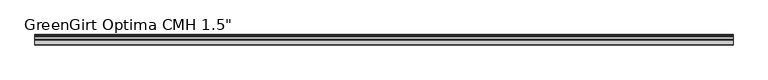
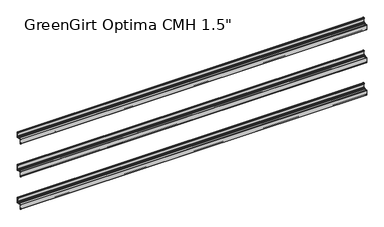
"""IFC4 building model written with IfcOpenShell, lengths in millimetres: fastener geometry."""

from ifc_helpers import new_model, si_unit, frame, origin, place, context, project, spatial, polyline, circle_curve, outline, extrude, source, transform, mapped, element, save
from ifc_brep_helpers import plane_surface, cylinder_surface, revolved_surface, advanced_brep


def fastener_05b20238(model_context):
    return source(origin(), model_context, "Body", "SolidModel", [
        advanced_brep(
        [(2540.1186361, -2.794, 882.269), (2540.1186361, -2.794, 850.9), (2540.1186361, -4.5212, 850.9), (2540.1186361, -4.5212, 855.091), (2540.1186361, -6.5532, 855.091), (2540.1186361, -6.5532, 850.9), (2540.1186361, -7.3152, 850.138), (2540.1186361, -17.7601563, 850.138), (2540.1186361, -17.7601563, 850.9864433), (2540.1186361, -20.4288947, 850.9864433), (2540.1186361, -20.4288947, 850.138), (2540.1186361, -37.3379766, 850.138), (2540.1186361, -38.0999766, 849.376), (2540.1186361, -38.1, 813.5196758), (2540.1186361, -37.3379766, 812.8), (2540.1186361, -34.4677766, 812.8), (2540.1186361, -32.4357766, 814.832), (2540.1186361, -32.4357766, 817.118), (2540.1186361, -34.4677766, 817.118), (2540.1186361, -34.4677766, 816.102), (2540.1186361, -36.1949766, 816.102), (2540.1186361, -36.1949766, 847.471), (2540.1186361, -34.4677766, 847.471), (2540.1186361, -34.4677766, 843.28), (2540.1186361, -32.4357766, 843.28), (2540.1186361, -32.4357766, 847.471), (2540.1186361, -31.6737766, 848.233), (2540.1186361, -20.4279799, 848.233), (2540.1186361, -20.4279799, 847.3840993), (2540.1186361, -17.7601563, 847.3840993), (2540.1186361, -17.7601563, 848.233), (2540.1186361, -2.667, 848.233), (2540.1186361, -1.905, 847.471), (2540.1186361, -1.905, 841.375), (2540.1186361, 0.0, 841.375), (2540.1186361, 0.0, 884.809), (2540.1186361, -0.762, 885.571), (2540.1186361, -4.5212, 885.571), (2540.1186361, -6.5532, 883.539), (2540.1186361, -6.5532, 881.253), (2540.1186361, -4.5212, 881.253), (2540.1186361, -4.5212, 882.269), (0.0, -2.794, 882.269), (0.0, -4.5212, 882.269), (0.0, -4.5212, 881.253), (0.0, -6.5532, 881.253), (0.0, -6.5532, 883.539), (0.0, -4.5212, 885.571), (0.0, -0.762, 885.571), (0.0, 0.0, 884.809), (0.0, 0.0, 841.375), (0.0, -1.905, 841.375), (0.0, -1.905, 847.471), (0.0, -2.667, 848.233), (0.0, -17.7601563, 848.233), (0.0, -17.7601563, 847.3840993), (0.0, -20.4279799, 847.3840993), (0.0, -20.4279799, 848.233), (0.0, -31.6737766, 848.233), (0.0, -32.4357766, 847.471), (0.0, -32.4357766, 843.28), (0.0, -34.4677766, 843.28), (0.0, -34.4677766, 847.471), (0.0, -36.1949766, 847.471), (0.0, -36.1949766, 816.102), (0.0, -34.4677766, 816.102), (0.0, -34.4677766, 817.118), (0.0, -32.4357766, 817.118), (0.0, -32.4357766, 814.832), (0.0, -34.4677766, 812.8), (0.0, -37.3379766, 812.8), (0.0, -38.0999766, 813.562), (0.0, -38.1, 849.4033226), (0.0, -37.3379766, 850.138), (0.0, -20.4288947, 850.138), (0.0, -20.4288947, 850.9864433), (0.0, -17.7601563, 850.9864433), (0.0, -17.7601563, 850.138), (0.0, -7.3152, 850.138), (0.0, -6.5532, 850.9), (0.0, -6.5532, 855.091), (0.0, -4.5212, 855.091), (0.0, -4.5212, 850.9), (0.0, -2.794, 850.9)],
        [
            (0, 1),
            (1, 2, circle_curve(frame((2540.1186361, -3.6576, 850.9), z_axis=(-1.0, 0.0, 0.0), x_axis=(0.0, 1.0, 0.0)), 0.8636)),
            (2, 3),
            (3, 4, circle_curve(frame((2540.1186361, -5.5372, 855.091), z_axis=(1.0, 0.0, 0.0), x_axis=(0.0, 1.0, 0.0)), 1.016)),
            (4, 5),
            (5, 6, circle_curve(frame((2540.1186361, -7.3152, 850.9), z_axis=(-1.0, 0.0, 0.0), x_axis=(0.0, 1.0, 0.0)), 0.762)),
            (6, 7),
            (7, 8),
            (8, 9, circle_curve(frame((2540.1186361, -19.0945255, 850.9864433), z_axis=(1.0, 0.0, 0.0), x_axis=(0.0, 1.0, 0.0)), 1.3343692)),
            (9, 10),
            (10, 11),
            (11, 12, circle_curve(frame((2540.1186361, -37.3379766, 849.376), z_axis=(1.0, 0.0, 0.0), x_axis=(0.0, 1.0, 0.0)), 0.762)),
            (12, 13),
            (13, 14, circle_curve(frame((2540.1186361, -37.3379766, 813.562), z_axis=(1.0, 0.0, 0.0), x_axis=(0.0, 1.0, 0.0)), 0.762)),
            (14, 15),
            (15, 16, circle_curve(frame((2540.1186361, -34.4677766, 814.832), z_axis=(1.0, 0.0, 0.0), x_axis=(0.0, 1.0, 0.0)), 2.032)),
            (16, 17),
            (17, 18, circle_curve(frame((2540.1186361, -33.4517766, 817.118), z_axis=(1.0, 0.0, 0.0), x_axis=(0.0, 1.0, 0.0)), 1.016)),
            (18, 19),
            (19, 20, circle_curve(frame((2540.1186361, -35.3313766, 816.102), z_axis=(-1.0, 0.0, 0.0), x_axis=(0.0, 1.0, 0.0)), 0.8636)),
            (20, 21),
            (21, 22, circle_curve(frame((2540.1186361, -35.3313766, 847.471), z_axis=(-1.0, 0.0, 0.0), x_axis=(0.0, 1.0, 0.0)), 0.8636)),
            (22, 23),
            (23, 24, circle_curve(frame((2540.1186361, -33.4517766, 843.28), z_axis=(1.0, 0.0, 0.0), x_axis=(0.0, 1.0, 0.0)), 1.016)),
            (24, 25),
            (25, 26, circle_curve(frame((2540.1186361, -31.6737766, 847.471), z_axis=(-1.0, 0.0, 0.0), x_axis=(0.0, 1.0, 0.0)), 0.762)),
            (26, 27),
            (27, 28),
            (28, 29, circle_curve(frame((2540.1186361, -19.0940681, 847.3840993), z_axis=(1.0, 0.0, 0.0), x_axis=(0.0, 1.0, 0.0)), 1.3339118)),
            (29, 30),
            (30, 31),
            (31, 32, circle_curve(frame((2540.1186361, -2.667, 847.471), z_axis=(-1.0, 0.0, 0.0), x_axis=(0.0, 1.0, 0.0)), 0.762)),
            (32, 33),
            (33, 34, circle_curve(frame((2540.1186361, -0.9525, 841.375), z_axis=(1.0, 0.0, 0.0), x_axis=(0.0, 1.0, 0.0)), 0.9525)),
            (34, 35),
            (35, 36, circle_curve(frame((2540.1186361, -0.762, 884.809), z_axis=(1.0, 0.0, 0.0), x_axis=(0.0, 1.0, 0.0)), 0.762)),
            (36, 37),
            (37, 38, circle_curve(frame((2540.1186361, -4.5212, 883.539), z_axis=(1.0, 0.0, 0.0), x_axis=(0.0, 1.0, 0.0)), 2.032)),
            (38, 39),
            (39, 40, circle_curve(frame((2540.1186361, -5.5372, 881.253), z_axis=(1.0, 0.0, 0.0), x_axis=(0.0, 1.0, 0.0)), 1.016)),
            (40, 41),
            (41, 0, circle_curve(frame((2540.1186361, -3.6576, 882.269), z_axis=(-1.0, 0.0, 0.0), x_axis=(0.0, 1.0, 0.0)), 0.8636)),
            (42, 43, circle_curve(frame((0.0, -3.6576, 882.269), z_axis=(1.0, 0.0, 0.0), x_axis=(0.0, 1.0, 0.0)), 0.8636)),
            (43, 44),
            (44, 45, circle_curve(frame((0.0, -5.5372, 881.253), z_axis=(-1.0, 0.0, 0.0), x_axis=(0.0, 1.0, 0.0)), 1.016)),
            (45, 46),
            (46, 47, circle_curve(frame((0.0, -4.5212, 883.539), z_axis=(-1.0, 0.0, 0.0), x_axis=(0.0, 1.0, 0.0)), 2.032)),
            (47, 48),
            (48, 49, circle_curve(frame((0.0, -0.762, 884.809), z_axis=(-1.0, 0.0, 0.0), x_axis=(0.0, 1.0, 0.0)), 0.762)),
            (49, 50),
            (50, 51, circle_curve(frame((0.0, -0.9525, 841.375), z_axis=(-1.0, 0.0, 0.0), x_axis=(0.0, 1.0, 0.0)), 0.9525)),
            (51, 52),
            (52, 53, circle_curve(frame((0.0, -2.667, 847.471), z_axis=(1.0, 0.0, 0.0), x_axis=(0.0, 1.0, 0.0)), 0.762)),
            (53, 54),
            (54, 55),
            (55, 56, circle_curve(frame((0.0, -19.0940681, 847.3840993), z_axis=(-1.0, 0.0, 0.0), x_axis=(0.0, 1.0, 0.0)), 1.3339118)),
            (56, 57),
            (57, 58),
            (58, 59, circle_curve(frame((0.0, -31.6737766, 847.471), z_axis=(1.0, 0.0, 0.0), x_axis=(0.0, 1.0, 0.0)), 0.762)),
            (59, 60),
            (60, 61, circle_curve(frame((0.0, -33.4517766, 843.28), z_axis=(-1.0, 0.0, 0.0), x_axis=(0.0, 1.0, 0.0)), 1.016)),
            (61, 62),
            (62, 63, circle_curve(frame((0.0, -35.3313766, 847.471), z_axis=(1.0, 0.0, 0.0), x_axis=(0.0, 1.0, 0.0)), 0.8636)),
            (63, 64),
            (64, 65, circle_curve(frame((0.0, -35.3313766, 816.102), z_axis=(1.0, 0.0, 0.0), x_axis=(0.0, 1.0, 0.0)), 0.8636)),
            (65, 66),
            (66, 67, circle_curve(frame((0.0, -33.4517766, 817.118), z_axis=(-1.0, 0.0, 0.0), x_axis=(0.0, 1.0, 0.0)), 1.016)),
            (67, 68),
            (68, 69, circle_curve(frame((0.0, -34.4677766, 814.832), z_axis=(-1.0, 0.0, 0.0), x_axis=(0.0, 1.0, 0.0)), 2.032)),
            (69, 70),
            (70, 71, circle_curve(frame((0.0, -37.3379766, 813.562), z_axis=(-1.0, 0.0, 0.0), x_axis=(0.0, 1.0, 0.0)), 0.762)),
            (71, 72),
            (72, 73, circle_curve(frame((0.0, -37.3379766, 849.376), z_axis=(-1.0, 0.0, 0.0), x_axis=(0.0, 1.0, 0.0)), 0.762)),
            (73, 74),
            (74, 75),
            (75, 76, circle_curve(frame((0.0, -19.0945255, 850.9864433), z_axis=(-1.0, 0.0, 0.0), x_axis=(0.0, 1.0, 0.0)), 1.3343692)),
            (76, 77),
            (77, 78),
            (78, 79, circle_curve(frame((0.0, -7.3152, 850.9), z_axis=(1.0, 0.0, 0.0), x_axis=(0.0, 1.0, 0.0)), 0.762)),
            (79, 80),
            (80, 81, circle_curve(frame((0.0, -5.5372, 855.091), z_axis=(-1.0, 0.0, 0.0), x_axis=(0.0, 1.0, 0.0)), 1.016)),
            (81, 82),
            (82, 83, circle_curve(frame((0.0, -3.6576, 850.9), z_axis=(1.0, 0.0, 0.0), x_axis=(0.0, 1.0, 0.0)), 0.8636)),
            (83, 42),
            (0, 42),
            (83, 1),
            (82, 2),
            (81, 3),
            (80, 4),
            (79, 5),
            (78, 6),
            (77, 7),
            (76, 8),
            (75, 9),
            (74, 10),
            (73, 11),
            (72, 12),
            (71, 13),
            (70, 14),
            (69, 15),
            (68, 16),
            (67, 17),
            (66, 18),
            (65, 19),
            (64, 20),
            (63, 21),
            (62, 22),
            (61, 23),
            (60, 24),
            (59, 25),
            (58, 26),
            (57, 27),
            (56, 28),
            (55, 29),
            (54, 30),
            (53, 31),
            (52, 32),
            (51, 33),
            (50, 34),
            (49, 35),
            (48, 36),
            (47, 37),
            (46, 38),
            (45, 39),
            (44, 40),
            (43, 41),
        ],
        [
            plane_surface(frame((2540.1186361, -2.794, 850.9), z_axis=(1.0, 0.0, 0.0), x_axis=(0.0, 0.0, -1.0))),
            plane_surface(frame((0.0, -2.794, 850.9), z_axis=(-1.0, 0.0, 0.0), x_axis=(0.0, 0.0, 1.0))),
            plane_surface(frame((2540.1186361, -2.794, 882.269), z_axis=(0.0, -1.0, 0.0), x_axis=(-1.0, 0.0, 0.0))),
            revolved_surface(polyline([(0.0, -2.794, 850.9), (2540.1186361, -2.794, 850.9)]), (0.0, -3.6576, 850.9), (-1.0, 0.0, 0.0)),
            plane_surface(frame((2540.1186361, -4.5212, 850.9), z_axis=(0.0, 1.0, 0.0), x_axis=(-1.0, 0.0, 0.0))),
            cylinder_surface(frame((0.0, -5.5372, 855.091), z_axis=(1.0, 0.0, 0.0), x_axis=(0.0, 1.0, 0.0)), 1.016),
            plane_surface(frame((2540.1186361, -6.5532, 855.091), z_axis=(0.0, -1.0, 0.0), x_axis=(-1.0, 0.0, 0.0))),
            revolved_surface(polyline([(0.0, -6.5532, 850.9), (2540.1186361, -6.5532, 850.9)]), (0.0, -7.3152, 850.9), (-1.0, 0.0, 0.0)),
            plane_surface(frame((2540.1186361, -7.3152, 850.138), z_axis=(0.0, 0.0, 1.0), x_axis=(-1.0, 0.0, 0.0))),
            plane_surface(frame((2540.1186361, -17.7601563, 850.138), z_axis=(0.0, 1.0, 0.0), x_axis=(-1.0, 0.0, 0.0))),
            cylinder_surface(frame((0.0, -19.0945255, 850.9864433), z_axis=(1.0, 0.0, 0.0), x_axis=(0.0, 1.0, 0.0)), 1.3343692),
            plane_surface(frame((2540.1186361, -20.4288947, 850.9864433), z_axis=(0.0, -1.0, 0.0), x_axis=(-1.0, 0.0, 0.0))),
            plane_surface(frame((2540.1186361, -20.4288947, 850.138), z_axis=(0.0, 0.0, 1.0), x_axis=(-1.0, 0.0, 0.0))),
            cylinder_surface(frame((0.0, -37.3379766, 849.376), z_axis=(1.0, 0.0, 0.0), x_axis=(0.0, 1.0, 0.0)), 0.762),
            plane_surface(frame((2540.1186361, -38.1, 849.4033226), z_axis=(0.0, -1.0, 0.0), x_axis=(-1.0, 0.0, 0.0))),
            cylinder_surface(frame((0.0, -37.3379766, 813.562), z_axis=(1.0, 0.0, 0.0), x_axis=(0.0, 1.0, 0.0)), 0.762),
            plane_surface(frame((2540.1186361, -37.3379766, 812.8), z_axis=(0.0, 1.174281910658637e-11, -1.0), x_axis=(-1.0, 0.0, 0.0))),
            cylinder_surface(frame((0.0, -34.4677766, 814.832), z_axis=(1.0, 0.0, 0.0), x_axis=(0.0, 1.0, 0.0)), 2.032),
            plane_surface(frame((2540.1186361, -32.4357766, 814.832), z_axis=(0.0, 1.0, 7.57912251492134e-12), x_axis=(-1.0, 0.0, 0.0))),
            cylinder_surface(frame((0.0, -33.4517766, 817.118), z_axis=(1.0, 0.0, 0.0), x_axis=(0.0, 1.0, 0.0)), 1.016),
            plane_surface(frame((2540.1186361, -34.4677766, 817.118), z_axis=(0.0, -1.0, -1.7053025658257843e-11), x_axis=(-1.0, 0.0, 0.0))),
            revolved_surface(polyline([(0.0, -34.4677766, 816.102), (2540.1186361, -34.4677766, 816.102)]), (0.0, -35.3313766, 816.102), (-1.0, 0.0, 0.0)),
            plane_surface(frame((2540.1186361, -36.1949766, 816.102), z_axis=(0.0, 1.0, 0.0), x_axis=(-1.0, 0.0, 0.0))),
            revolved_surface(polyline([(0.0, -34.4677766, 847.471), (2540.1186361, -34.4677766, 847.471)]), (0.0, -35.3313766, 847.471), (-1.0, 0.0, 0.0)),
            plane_surface(frame((2540.1186361, -34.4677766, 847.471), z_axis=(0.0, -1.0, 0.0), x_axis=(-1.0, 0.0, 0.0))),
            cylinder_surface(frame((0.0, -33.4517766, 843.28), z_axis=(1.0, 0.0, 0.0), x_axis=(0.0, 1.0, 0.0)), 1.016),
            plane_surface(frame((2540.1186361, -32.4357766, 843.28), z_axis=(0.0, 1.0, 0.0), x_axis=(-1.0, 0.0, 0.0))),
            revolved_surface(polyline([(0.0, -30.9117766, 847.471), (2540.1186361, -30.9117766, 847.471)]), (0.0, -31.6737766, 847.471), (-1.0, 0.0, 0.0)),
            plane_surface(frame((2540.1186361, -31.6737766, 848.233), z_axis=(0.0, 0.0, -1.0), x_axis=(-1.0, 0.0, 0.0))),
            plane_surface(frame((2540.1186361, -20.4279799, 848.233), z_axis=(0.0, -1.0, 0.0), x_axis=(-1.0, 0.0, 0.0))),
            cylinder_surface(frame((0.0, -19.0940681, 847.3840993), z_axis=(1.0, 0.0, 0.0), x_axis=(0.0, 1.0, 0.0)), 1.3339118),
            plane_surface(frame((2540.1186361, -17.7601563, 847.3840993), z_axis=(0.0, 1.0, 0.0), x_axis=(-1.0, 0.0, 0.0))),
            plane_surface(frame((2540.1186361, -17.7601563, 848.233), z_axis=(0.0, 0.0, -1.0), x_axis=(-1.0, 0.0, 0.0))),
            revolved_surface(polyline([(0.0, -1.9049999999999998, 847.471), (2540.1186361, -1.9049999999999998, 847.471)]), (0.0, -2.667, 847.471), (-1.0, 0.0, 0.0)),
            plane_surface(frame((2540.1186361, -1.905, 847.471), z_axis=(0.0, -1.0, 0.0), x_axis=(-1.0, 0.0, 0.0))),
            cylinder_surface(frame((0.0, -0.9525, 841.375), z_axis=(1.0, 0.0, 0.0), x_axis=(0.0, 1.0, 0.0)), 0.9525),
            plane_surface(frame((2540.1186361, 0.0, 841.375), z_axis=(0.0, 1.0, 0.0), x_axis=(-1.0, 0.0, 0.0))),
            cylinder_surface(frame((0.0, -0.762, 884.809), z_axis=(1.0, 0.0, 0.0), x_axis=(0.0, 1.0, 0.0)), 0.762),
            plane_surface(frame((2540.1186361, -0.762, 885.571), z_axis=(0.0, 2.6818637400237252e-11, 1.0), x_axis=(-1.0, 0.0, 0.0))),
            cylinder_surface(frame((0.0, -4.5212, 883.539), z_axis=(1.0, 0.0, 0.0), x_axis=(0.0, 1.0, 0.0)), 2.032),
            plane_surface(frame((2540.1186361, -6.5532, 883.539), z_axis=(0.0, -1.0, 0.0), x_axis=(-1.0, 0.0, 0.0))),
            cylinder_surface(frame((0.0, -5.5372, 881.253), z_axis=(1.0, 0.0, 0.0), x_axis=(0.0, 1.0, 0.0)), 1.016),
            plane_surface(frame((2540.1186361, -4.5212, 881.253), z_axis=(0.0, 1.0, 0.0), x_axis=(-1.0, 0.0, 0.0))),
            revolved_surface(polyline([(0.0, -2.794, 882.269), (2540.1186361, -2.794, 882.269)]), (0.0, -3.6576, 882.269), (-1.0, 0.0, 0.0)),
        ],
        [
            (0, [[1, 2, 3, 4, 5, 6, 7, 8, 9, 10, 11, 12, 13, 14, 15, 16, 17, 18, 19, 20, 21, 22, 23, 24, 25, 26, 27, 28, 29, 30, 31, 32, 33, 34, 35, 36, 37, 38, 39, 40, 41, 42]]),
            (1, [[43, 44, 45, 46, 47, 48, 49, 50, 51, 52, 53, 54, 55, 56, 57, 58, 59, 60, 61, 62, 63, 64, 65, 66, 67, 68, 69, 70, 71, 72, 73, 74, 75, 76, 77, 78, 79, 80, 81, 82, 83, 84]]),
            (2, [[-1, 85, -84, 86]]),
            (3, [[-2, -86, -83, 87]]),
            (4, [[-3, -87, -82, 88]]),
            (5, [[-4, -88, -81, 89]]),
            (6, [[-5, -89, -80, 90]]),
            (7, [[-6, -90, -79, 91]]),
            (8, [[-7, -91, -78, 92]]),
            (9, [[-8, -92, -77, 93]]),
            (10, [[-9, -93, -76, 94]]),
            (11, [[-10, -94, -75, 95]]),
            (12, [[-11, -95, -74, 96]]),
            (13, [[-12, -96, -73, 97]]),
            (14, [[-13, -97, -72, 98]]),
            (15, [[-14, -98, -71, 99]]),
            (16, [[-15, -99, -70, 100]]),
            (17, [[-16, -100, -69, 101]]),
            (18, [[-17, -101, -68, 102]]),
            (19, [[-18, -102, -67, 103]]),
            (20, [[-19, -103, -66, 104]]),
            (21, [[-20, -104, -65, 105]]),
            (22, [[-21, -105, -64, 106]]),
            (23, [[-22, -106, -63, 107]]),
            (24, [[-23, -107, -62, 108]]),
            (25, [[-24, -108, -61, 109]]),
            (26, [[-25, -109, -60, 110]]),
            (27, [[-26, -110, -59, 111]]),
            (28, [[-27, -111, -58, 112]]),
            (29, [[-28, -112, -57, 113]]),
            (30, [[-29, -113, -56, 114]]),
            (31, [[-30, -114, -55, 115]]),
            (32, [[-31, -115, -54, 116]]),
            (33, [[-32, -116, -53, 117]]),
            (34, [[-33, -117, -52, 118]]),
            (35, [[-34, -118, -51, 119]]),
            (36, [[-35, -119, -50, 120]]),
            (37, [[-36, -120, -49, 121]]),
            (38, [[-37, -121, -48, 122]]),
            (39, [[-38, -122, -47, 123]]),
            (40, [[-39, -123, -46, 124]]),
            (41, [[-40, -124, -45, 125]]),
            (42, [[-41, -125, -44, 126]]),
            (43, [[-42, -126, -43, -85]]),
        ],
    ),
        extrude(outline(polyline([(2540.1186361, -2.794), (2540.1186361, -4.5212), (0.0, -4.5212), (0.0, -2.794), (2540.1186361, -2.794)])), frame((0.0, 0.0, 851.281), z_axis=(0.0, 0.0, 1.0), x_axis=(1.0, 0.0, 0.0)), (0.0, 0.0, 1.0), 30.988),
        extrude(outline(polyline([(2540.1186361, -34.4677766), (2540.1186361, -36.1949766), (0.0, -36.1949766), (0.0, -34.4677766), (2540.1186361, -34.4677766)])), frame((0.0, 0.0, 816.102), z_axis=(0.0, 0.0, 1.0), x_axis=(1.0, 0.0, 0.0)), (0.0, 0.0, 1.0), 30.988),
        advanced_brep(
        [(2540.1186361, -2.794, 628.269), (2540.1186361, -2.794, 596.9), (2540.1186361, -4.5212, 596.9), (2540.1186361, -4.5212, 601.091), (2540.1186361, -6.5532, 601.091), (2540.1186361, -6.5532, 596.9), (2540.1186361, -7.3152, 596.138), (2540.1186361, -17.7601563, 596.138), (2540.1186361, -17.7601563, 596.9864433), (2540.1186361, -20.4288947, 596.9864433), (2540.1186361, -20.4288947, 596.138), (2540.1186361, -37.3379766, 596.138), (2540.1186361, -38.0999766, 595.376), (2540.1186361, -38.1, 559.5196758), (2540.1186361, -37.3379766, 558.8), (2540.1186361, -34.4677766, 558.8), (2540.1186361, -32.4357766, 560.832), (2540.1186361, -32.4357766, 563.118), (2540.1186361, -34.4677766, 563.118), (2540.1186361, -34.4677766, 562.102), (2540.1186361, -36.1949766, 562.102), (2540.1186361, -36.1949766, 593.471), (2540.1186361, -34.4677766, 593.471), (2540.1186361, -34.4677766, 589.28), (2540.1186361, -32.4357766, 589.28), (2540.1186361, -32.4357766, 593.471), (2540.1186361, -31.6737766, 594.233), (2540.1186361, -20.4279799, 594.233), (2540.1186361, -20.4279799, 593.3840993), (2540.1186361, -17.7601563, 593.3840993), (2540.1186361, -17.7601563, 594.233), (2540.1186361, -2.667, 594.233), (2540.1186361, -1.905, 593.471), (2540.1186361, -1.905, 587.375), (2540.1186361, 0.0, 587.375), (2540.1186361, 0.0, 630.809), (2540.1186361, -0.762, 631.571), (2540.1186361, -4.5212, 631.571), (2540.1186361, -6.5532, 629.539), (2540.1186361, -6.5532, 627.253), (2540.1186361, -4.5212, 627.253), (2540.1186361, -4.5212, 628.269), (0.0, -2.794, 628.269), (0.0, -4.5212, 628.269), (0.0, -4.5212, 627.253), (0.0, -6.5532, 627.253), (0.0, -6.5532, 629.539), (0.0, -4.5212, 631.571), (0.0, -0.762, 631.571), (0.0, 0.0, 630.809), (0.0, 0.0, 587.375), (0.0, -1.905, 587.375), (0.0, -1.905, 593.471), (0.0, -2.667, 594.233), (0.0, -17.7601563, 594.233), (0.0, -17.7601563, 593.3840993), (0.0, -20.4279799, 593.3840993), (0.0, -20.4279799, 594.233), (0.0, -31.6737766, 594.233), (0.0, -32.4357766, 593.471), (0.0, -32.4357766, 589.28), (0.0, -34.4677766, 589.28), (0.0, -34.4677766, 593.471), (0.0, -36.1949766, 593.471), (0.0, -36.1949766, 562.102), (0.0, -34.4677766, 562.102), (0.0, -34.4677766, 563.118), (0.0, -32.4357766, 563.118), (0.0, -32.4357766, 560.832), (0.0, -34.4677766, 558.8), (0.0, -37.3379766, 558.8), (0.0, -38.0999766, 559.562), (0.0, -38.1, 595.4033226), (0.0, -37.3379766, 596.138), (0.0, -20.4288947, 596.138), (0.0, -20.4288947, 596.9864433), (0.0, -17.7601563, 596.9864433), (0.0, -17.7601563, 596.138), (0.0, -7.3152, 596.138), (0.0, -6.5532, 596.9), (0.0, -6.5532, 601.091), (0.0, -4.5212, 601.091), (0.0, -4.5212, 596.9), (0.0, -2.794, 596.9)],
        [
            (0, 1),
            (1, 2, circle_curve(frame((2540.1186361, -3.6576, 596.9), z_axis=(-1.0, 0.0, 0.0), x_axis=(0.0, 1.0, 0.0)), 0.8636)),
            (2, 3),
            (3, 4, circle_curve(frame((2540.1186361, -5.5372, 601.091), z_axis=(1.0, 0.0, 0.0), x_axis=(0.0, 1.0, 0.0)), 1.016)),
            (4, 5),
            (5, 6, circle_curve(frame((2540.1186361, -7.3152, 596.9), z_axis=(-1.0, 0.0, 0.0), x_axis=(0.0, 1.0, 0.0)), 0.762)),
            (6, 7),
            (7, 8),
            (8, 9, circle_curve(frame((2540.1186361, -19.0945255, 596.9864433), z_axis=(1.0, 0.0, 0.0), x_axis=(0.0, 1.0, 0.0)), 1.3343692)),
            (9, 10),
            (10, 11),
            (11, 12, circle_curve(frame((2540.1186361, -37.3379766, 595.376), z_axis=(1.0, 0.0, 0.0), x_axis=(0.0, 1.0, 0.0)), 0.762)),
            (12, 13),
            (13, 14, circle_curve(frame((2540.1186361, -37.3379766, 559.562), z_axis=(1.0, 0.0, 0.0), x_axis=(0.0, 1.0, 0.0)), 0.762)),
            (14, 15),
            (15, 16, circle_curve(frame((2540.1186361, -34.4677766, 560.832), z_axis=(1.0, 0.0, 0.0), x_axis=(0.0, 1.0, 0.0)), 2.032)),
            (16, 17),
            (17, 18, circle_curve(frame((2540.1186361, -33.4517766, 563.118), z_axis=(1.0, 0.0, 0.0), x_axis=(0.0, 1.0, 0.0)), 1.016)),
            (18, 19),
            (19, 20, circle_curve(frame((2540.1186361, -35.3313766, 562.102), z_axis=(-1.0, 0.0, 0.0), x_axis=(0.0, 1.0, 0.0)), 0.8636)),
            (20, 21),
            (21, 22, circle_curve(frame((2540.1186361, -35.3313766, 593.471), z_axis=(-1.0, 0.0, 0.0), x_axis=(0.0, 1.0, 0.0)), 0.8636)),
            (22, 23),
            (23, 24, circle_curve(frame((2540.1186361, -33.4517766, 589.28), z_axis=(1.0, 0.0, 0.0), x_axis=(0.0, 1.0, 0.0)), 1.016)),
            (24, 25),
            (25, 26, circle_curve(frame((2540.1186361, -31.6737766, 593.471), z_axis=(-1.0, 0.0, 0.0), x_axis=(0.0, 1.0, 0.0)), 0.762)),
            (26, 27),
            (27, 28),
            (28, 29, circle_curve(frame((2540.1186361, -19.0940681, 593.3840993), z_axis=(1.0, 0.0, 0.0), x_axis=(0.0, 1.0, 0.0)), 1.3339118)),
            (29, 30),
            (30, 31),
            (31, 32, circle_curve(frame((2540.1186361, -2.667, 593.471), z_axis=(-1.0, 0.0, 0.0), x_axis=(0.0, 1.0, 0.0)), 0.762)),
            (32, 33),
            (33, 34, circle_curve(frame((2540.1186361, -0.9525, 587.375), z_axis=(1.0, 0.0, 0.0), x_axis=(0.0, 1.0, 0.0)), 0.9525)),
            (34, 35),
            (35, 36, circle_curve(frame((2540.1186361, -0.762, 630.809), z_axis=(1.0, 0.0, 0.0), x_axis=(0.0, 1.0, 0.0)), 0.762)),
            (36, 37),
            (37, 38, circle_curve(frame((2540.1186361, -4.5212, 629.539), z_axis=(1.0, 0.0, 0.0), x_axis=(0.0, 1.0, 0.0)), 2.032)),
            (38, 39),
            (39, 40, circle_curve(frame((2540.1186361, -5.5372, 627.253), z_axis=(1.0, 0.0, 0.0), x_axis=(0.0, 1.0, 0.0)), 1.016)),
            (40, 41),
            (41, 0, circle_curve(frame((2540.1186361, -3.6576, 628.269), z_axis=(-1.0, 0.0, 0.0), x_axis=(0.0, 1.0, 0.0)), 0.8636)),
            (42, 43, circle_curve(frame((0.0, -3.6576, 628.269), z_axis=(1.0, 0.0, 0.0), x_axis=(0.0, 1.0, 0.0)), 0.8636)),
            (43, 44),
            (44, 45, circle_curve(frame((0.0, -5.5372, 627.253), z_axis=(-1.0, 0.0, 0.0), x_axis=(0.0, 1.0, 0.0)), 1.016)),
            (45, 46),
            (46, 47, circle_curve(frame((0.0, -4.5212, 629.539), z_axis=(-1.0, 0.0, 0.0), x_axis=(0.0, 1.0, 0.0)), 2.032)),
            (47, 48),
            (48, 49, circle_curve(frame((0.0, -0.762, 630.809), z_axis=(-1.0, 0.0, 0.0), x_axis=(0.0, 1.0, 0.0)), 0.762)),
            (49, 50),
            (50, 51, circle_curve(frame((0.0, -0.9525, 587.375), z_axis=(-1.0, 0.0, 0.0), x_axis=(0.0, 1.0, 0.0)), 0.9525)),
            (51, 52),
            (52, 53, circle_curve(frame((0.0, -2.667, 593.471), z_axis=(1.0, 0.0, 0.0), x_axis=(0.0, 1.0, 0.0)), 0.762)),
            (53, 54),
            (54, 55),
            (55, 56, circle_curve(frame((0.0, -19.0940681, 593.3840993), z_axis=(-1.0, 0.0, 0.0), x_axis=(0.0, 1.0, 0.0)), 1.3339118)),
            (56, 57),
            (57, 58),
            (58, 59, circle_curve(frame((0.0, -31.6737766, 593.471), z_axis=(1.0, 0.0, 0.0), x_axis=(0.0, 1.0, 0.0)), 0.762)),
            (59, 60),
            (60, 61, circle_curve(frame((0.0, -33.4517766, 589.28), z_axis=(-1.0, 0.0, 0.0), x_axis=(0.0, 1.0, 0.0)), 1.016)),
            (61, 62),
            (62, 63, circle_curve(frame((0.0, -35.3313766, 593.471), z_axis=(1.0, 0.0, 0.0), x_axis=(0.0, 1.0, 0.0)), 0.8636)),
            (63, 64),
            (64, 65, circle_curve(frame((0.0, -35.3313766, 562.102), z_axis=(1.0, 0.0, 0.0), x_axis=(0.0, 1.0, 0.0)), 0.8636)),
            (65, 66),
            (66, 67, circle_curve(frame((0.0, -33.4517766, 563.118), z_axis=(-1.0, 0.0, 0.0), x_axis=(0.0, 1.0, 0.0)), 1.016)),
            (67, 68),
            (68, 69, circle_curve(frame((0.0, -34.4677766, 560.832), z_axis=(-1.0, 0.0, 0.0), x_axis=(0.0, 1.0, 0.0)), 2.032)),
            (69, 70),
            (70, 71, circle_curve(frame((0.0, -37.3379766, 559.562), z_axis=(-1.0, 0.0, 0.0), x_axis=(0.0, 1.0, 0.0)), 0.762)),
            (71, 72),
            (72, 73, circle_curve(frame((0.0, -37.3379766, 595.376), z_axis=(-1.0, 0.0, 0.0), x_axis=(0.0, 1.0, 0.0)), 0.762)),
            (73, 74),
            (74, 75),
            (75, 76, circle_curve(frame((0.0, -19.0945255, 596.9864433), z_axis=(-1.0, 0.0, 0.0), x_axis=(0.0, 1.0, 0.0)), 1.3343692)),
            (76, 77),
            (77, 78),
            (78, 79, circle_curve(frame((0.0, -7.3152, 596.9), z_axis=(1.0, 0.0, 0.0), x_axis=(0.0, 1.0, 0.0)), 0.762)),
            (79, 80),
            (80, 81, circle_curve(frame((0.0, -5.5372, 601.091), z_axis=(-1.0, 0.0, 0.0), x_axis=(0.0, 1.0, 0.0)), 1.016)),
            (81, 82),
            (82, 83, circle_curve(frame((0.0, -3.6576, 596.9), z_axis=(1.0, 0.0, 0.0), x_axis=(0.0, 1.0, 0.0)), 0.8636)),
            (83, 42),
            (0, 42),
            (83, 1),
            (82, 2),
            (81, 3),
            (80, 4),
            (79, 5),
            (78, 6),
            (77, 7),
            (76, 8),
            (75, 9),
            (74, 10),
            (73, 11),
            (72, 12),
            (71, 13),
            (70, 14),
            (69, 15),
            (68, 16),
            (67, 17),
            (66, 18),
            (65, 19),
            (64, 20),
            (63, 21),
            (62, 22),
            (61, 23),
            (60, 24),
            (59, 25),
            (58, 26),
            (57, 27),
            (56, 28),
            (55, 29),
            (54, 30),
            (53, 31),
            (52, 32),
            (51, 33),
            (50, 34),
            (49, 35),
            (48, 36),
            (47, 37),
            (46, 38),
            (45, 39),
            (44, 40),
            (43, 41),
        ],
        [
            plane_surface(frame((2540.1186361, -2.794, 596.9), z_axis=(1.0, 0.0, 0.0), x_axis=(0.0, 0.0, -1.0))),
            plane_surface(frame((0.0, -2.794, 596.9), z_axis=(-1.0, 0.0, 0.0), x_axis=(0.0, 0.0, 1.0))),
            plane_surface(frame((2540.1186361, -2.794, 628.269), z_axis=(0.0, -1.0, 0.0), x_axis=(-1.0, 0.0, 0.0))),
            revolved_surface(polyline([(0.0, -2.794, 596.9), (2540.1186361, -2.794, 596.9)]), (0.0, -3.6576, 596.9), (-1.0, 0.0, 0.0)),
            plane_surface(frame((2540.1186361, -4.5212, 596.9), z_axis=(0.0, 1.0, 0.0), x_axis=(-1.0, 0.0, 0.0))),
            cylinder_surface(frame((0.0, -5.5372, 601.091), z_axis=(1.0, 0.0, 0.0), x_axis=(0.0, 1.0, 0.0)), 1.016),
            plane_surface(frame((2540.1186361, -6.5532, 601.091), z_axis=(0.0, -1.0, 0.0), x_axis=(-1.0, 0.0, 0.0))),
            revolved_surface(polyline([(0.0, -6.5532, 596.9), (2540.1186361, -6.5532, 596.9)]), (0.0, -7.3152, 596.9), (-1.0, 0.0, 0.0)),
            plane_surface(frame((2540.1186361, -7.3152, 596.138), z_axis=(0.0, 0.0, 1.0), x_axis=(-1.0, 0.0, 0.0))),
            plane_surface(frame((2540.1186361, -17.7601563, 596.138), z_axis=(0.0, 1.0, 0.0), x_axis=(-1.0, 0.0, 0.0))),
            cylinder_surface(frame((0.0, -19.0945255, 596.9864433), z_axis=(1.0, 0.0, 0.0), x_axis=(0.0, 1.0, 0.0)), 1.3343692),
            plane_surface(frame((2540.1186361, -20.4288947, 596.9864433), z_axis=(0.0, -1.0, 0.0), x_axis=(-1.0, 0.0, 0.0))),
            plane_surface(frame((2540.1186361, -20.4288947, 596.138), z_axis=(0.0, 0.0, 1.0), x_axis=(-1.0, 0.0, 0.0))),
            cylinder_surface(frame((0.0, -37.3379766, 595.376), z_axis=(1.0, 0.0, 0.0), x_axis=(0.0, 1.0, 0.0)), 0.762),
            plane_surface(frame((2540.1186361, -38.1, 595.4033226), z_axis=(0.0, -1.0, 0.0), x_axis=(-1.0, 0.0, 0.0))),
            cylinder_surface(frame((0.0, -37.3379766, 559.562), z_axis=(1.0, 0.0, 0.0), x_axis=(0.0, 1.0, 0.0)), 0.762),
            plane_surface(frame((2540.1186361, -37.3379766, 558.8), z_axis=(0.0, 1.174281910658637e-11, -1.0), x_axis=(-1.0, 0.0, 0.0))),
            cylinder_surface(frame((0.0, -34.4677766, 560.832), z_axis=(1.0, 0.0, 0.0), x_axis=(0.0, 1.0, 0.0)), 2.032),
            plane_surface(frame((2540.1186361, -32.4357766, 560.832), z_axis=(0.0, 1.0, 7.57912251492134e-12), x_axis=(-1.0, 0.0, 0.0))),
            cylinder_surface(frame((0.0, -33.4517766, 563.118), z_axis=(1.0, 0.0, 0.0), x_axis=(0.0, 1.0, 0.0)), 1.016),
            plane_surface(frame((2540.1186361, -34.4677766, 563.118), z_axis=(0.0, -1.0, -1.7053025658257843e-11), x_axis=(-1.0, 0.0, 0.0))),
            revolved_surface(polyline([(0.0, -34.4677766, 562.102), (2540.1186361, -34.4677766, 562.102)]), (0.0, -35.3313766, 562.102), (-1.0, 0.0, 0.0)),
            plane_surface(frame((2540.1186361, -36.1949766, 562.102), z_axis=(0.0, 1.0, 0.0), x_axis=(-1.0, 0.0, 0.0))),
            revolved_surface(polyline([(0.0, -34.4677766, 593.471), (2540.1186361, -34.4677766, 593.471)]), (0.0, -35.3313766, 593.471), (-1.0, 0.0, 0.0)),
            plane_surface(frame((2540.1186361, -34.4677766, 593.471), z_axis=(0.0, -1.0, 0.0), x_axis=(-1.0, 0.0, 0.0))),
            cylinder_surface(frame((0.0, -33.4517766, 589.28), z_axis=(1.0, 0.0, 0.0), x_axis=(0.0, 1.0, 0.0)), 1.016),
            plane_surface(frame((2540.1186361, -32.4357766, 589.28), z_axis=(0.0, 1.0, 0.0), x_axis=(-1.0, 0.0, 0.0))),
            revolved_surface(polyline([(0.0, -30.9117766, 593.471), (2540.1186361, -30.9117766, 593.471)]), (0.0, -31.6737766, 593.471), (-1.0, 0.0, 0.0)),
            plane_surface(frame((2540.1186361, -31.6737766, 594.233), z_axis=(0.0, 0.0, -1.0), x_axis=(-1.0, 0.0, 0.0))),
            plane_surface(frame((2540.1186361, -20.4279799, 594.233), z_axis=(0.0, -1.0, 0.0), x_axis=(-1.0, 0.0, 0.0))),
            cylinder_surface(frame((0.0, -19.0940681, 593.3840993), z_axis=(1.0, 0.0, 0.0), x_axis=(0.0, 1.0, 0.0)), 1.3339118),
            plane_surface(frame((2540.1186361, -17.7601563, 593.3840993), z_axis=(0.0, 1.0, 0.0), x_axis=(-1.0, 0.0, 0.0))),
            plane_surface(frame((2540.1186361, -17.7601563, 594.233), z_axis=(0.0, 0.0, -1.0), x_axis=(-1.0, 0.0, 0.0))),
            revolved_surface(polyline([(0.0, -1.9049999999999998, 593.471), (2540.1186361, -1.9049999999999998, 593.471)]), (0.0, -2.667, 593.471), (-1.0, 0.0, 0.0)),
            plane_surface(frame((2540.1186361, -1.905, 593.471), z_axis=(0.0, -1.0, 0.0), x_axis=(-1.0, 0.0, 0.0))),
            cylinder_surface(frame((0.0, -0.9525, 587.375), z_axis=(1.0, 0.0, 0.0), x_axis=(0.0, 1.0, 0.0)), 0.9525),
            plane_surface(frame((2540.1186361, 0.0, 587.375), z_axis=(0.0, 1.0, 0.0), x_axis=(-1.0, 0.0, 0.0))),
            cylinder_surface(frame((0.0, -0.762, 630.809), z_axis=(1.0, 0.0, 0.0), x_axis=(0.0, 1.0, 0.0)), 0.762),
            plane_surface(frame((2540.1186361, -0.762, 631.571), z_axis=(0.0, 2.6818637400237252e-11, 1.0), x_axis=(-1.0, 0.0, 0.0))),
            cylinder_surface(frame((0.0, -4.5212, 629.539), z_axis=(1.0, 0.0, 0.0), x_axis=(0.0, 1.0, 0.0)), 2.032),
            plane_surface(frame((2540.1186361, -6.5532, 629.539), z_axis=(0.0, -1.0, 0.0), x_axis=(-1.0, 0.0, 0.0))),
            cylinder_surface(frame((0.0, -5.5372, 627.253), z_axis=(1.0, 0.0, 0.0), x_axis=(0.0, 1.0, 0.0)), 1.016),
            plane_surface(frame((2540.1186361, -4.5212, 627.253), z_axis=(0.0, 1.0, 0.0), x_axis=(-1.0, 0.0, 0.0))),
            revolved_surface(polyline([(0.0, -2.794, 628.269), (2540.1186361, -2.794, 628.269)]), (0.0, -3.6576, 628.269), (-1.0, 0.0, 0.0)),
        ],
        [
            (0, [[1, 2, 3, 4, 5, 6, 7, 8, 9, 10, 11, 12, 13, 14, 15, 16, 17, 18, 19, 20, 21, 22, 23, 24, 25, 26, 27, 28, 29, 30, 31, 32, 33, 34, 35, 36, 37, 38, 39, 40, 41, 42]]),
            (1, [[43, 44, 45, 46, 47, 48, 49, 50, 51, 52, 53, 54, 55, 56, 57, 58, 59, 60, 61, 62, 63, 64, 65, 66, 67, 68, 69, 70, 71, 72, 73, 74, 75, 76, 77, 78, 79, 80, 81, 82, 83, 84]]),
            (2, [[-1, 85, -84, 86]]),
            (3, [[-2, -86, -83, 87]]),
            (4, [[-3, -87, -82, 88]]),
            (5, [[-4, -88, -81, 89]]),
            (6, [[-5, -89, -80, 90]]),
            (7, [[-6, -90, -79, 91]]),
            (8, [[-7, -91, -78, 92]]),
            (9, [[-8, -92, -77, 93]]),
            (10, [[-9, -93, -76, 94]]),
            (11, [[-10, -94, -75, 95]]),
            (12, [[-11, -95, -74, 96]]),
            (13, [[-12, -96, -73, 97]]),
            (14, [[-13, -97, -72, 98]]),
            (15, [[-14, -98, -71, 99]]),
            (16, [[-15, -99, -70, 100]]),
            (17, [[-16, -100, -69, 101]]),
            (18, [[-17, -101, -68, 102]]),
            (19, [[-18, -102, -67, 103]]),
            (20, [[-19, -103, -66, 104]]),
            (21, [[-20, -104, -65, 105]]),
            (22, [[-21, -105, -64, 106]]),
            (23, [[-22, -106, -63, 107]]),
            (24, [[-23, -107, -62, 108]]),
            (25, [[-24, -108, -61, 109]]),
            (26, [[-25, -109, -60, 110]]),
            (27, [[-26, -110, -59, 111]]),
            (28, [[-27, -111, -58, 112]]),
            (29, [[-28, -112, -57, 113]]),
            (30, [[-29, -113, -56, 114]]),
            (31, [[-30, -114, -55, 115]]),
            (32, [[-31, -115, -54, 116]]),
            (33, [[-32, -116, -53, 117]]),
            (34, [[-33, -117, -52, 118]]),
            (35, [[-34, -118, -51, 119]]),
            (36, [[-35, -119, -50, 120]]),
            (37, [[-36, -120, -49, 121]]),
            (38, [[-37, -121, -48, 122]]),
            (39, [[-38, -122, -47, 123]]),
            (40, [[-39, -123, -46, 124]]),
            (41, [[-40, -124, -45, 125]]),
            (42, [[-41, -125, -44, 126]]),
            (43, [[-42, -126, -43, -85]]),
        ],
    ),
        extrude(outline(polyline([(2540.1186361, -2.794), (2540.1186361, -4.5212), (0.0, -4.5212), (0.0, -2.794), (2540.1186361, -2.794)])), frame((0.0, 0.0, 597.281), z_axis=(0.0, 0.0, 1.0), x_axis=(1.0, 0.0, 0.0)), (0.0, 0.0, 1.0), 30.988),
        extrude(outline(polyline([(2540.1186361, -34.4677766), (2540.1186361, -36.1949766), (0.0, -36.1949766), (0.0, -34.4677766), (2540.1186361, -34.4677766)])), frame((0.0, 0.0, 562.102), z_axis=(0.0, 0.0, 1.0), x_axis=(1.0, 0.0, 0.0)), (0.0, 0.0, 1.0), 30.988),
        advanced_brep(
        [(2540.1186361, -2.794, 374.269), (2540.1186361, -2.794, 342.9), (2540.1186361, -4.5212, 342.9), (2540.1186361, -4.5212, 347.091), (2540.1186361, -6.5532, 347.091), (2540.1186361, -6.5532, 342.9), (2540.1186361, -7.3152, 342.138), (2540.1186361, -17.7601563, 342.138), (2540.1186361, -17.7601563, 342.9864433), (2540.1186361, -20.4288947, 342.9864433), (2540.1186361, -20.4288947, 342.138), (2540.1186361, -37.3379766, 342.138), (2540.1186361, -38.0999766, 341.376), (2540.1186361, -38.1, 305.5196758), (2540.1186361, -37.3379766, 304.8), (2540.1186361, -34.4677766, 304.8), (2540.1186361, -32.4357766, 306.832), (2540.1186361, -32.4357766, 309.118), (2540.1186361, -34.4677766, 309.118), (2540.1186361, -34.4677766, 308.102), (2540.1186361, -36.1949766, 308.102), (2540.1186361, -36.1949766, 339.471), (2540.1186361, -34.4677766, 339.471), (2540.1186361, -34.4677766, 335.28), (2540.1186361, -32.4357766, 335.28), (2540.1186361, -32.4357766, 339.471), (2540.1186361, -31.6737766, 340.233), (2540.1186361, -20.4279799, 340.233), (2540.1186361, -20.4279799, 339.3840993), (2540.1186361, -17.7601563, 339.3840993), (2540.1186361, -17.7601563, 340.233), (2540.1186361, -2.667, 340.233), (2540.1186361, -1.905, 339.471), (2540.1186361, -1.905, 333.375), (2540.1186361, 0.0, 333.375), (2540.1186361, 0.0, 376.809), (2540.1186361, -0.762, 377.571), (2540.1186361, -4.5212, 377.571), (2540.1186361, -6.5532, 375.539), (2540.1186361, -6.5532, 373.253), (2540.1186361, -4.5212, 373.253), (2540.1186361, -4.5212, 374.269), (0.0, -2.794, 374.269), (0.0, -4.5212, 374.269), (0.0, -4.5212, 373.253), (0.0, -6.5532, 373.253), (0.0, -6.5532, 375.539), (0.0, -4.5212, 377.571), (0.0, -0.762, 377.571), (0.0, 0.0, 376.809), (0.0, 0.0, 333.375), (0.0, -1.905, 333.375), (0.0, -1.905, 339.471), (0.0, -2.667, 340.233), (0.0, -17.7601563, 340.233), (0.0, -17.7601563, 339.3840993), (0.0, -20.4279799, 339.3840993), (0.0, -20.4279799, 340.233), (0.0, -31.6737766, 340.233), (0.0, -32.4357766, 339.471), (0.0, -32.4357766, 335.28), (0.0, -34.4677766, 335.28), (0.0, -34.4677766, 339.471), (0.0, -36.1949766, 339.471), (0.0, -36.1949766, 308.102), (0.0, -34.4677766, 308.102), (0.0, -34.4677766, 309.118), (0.0, -32.4357766, 309.118), (0.0, -32.4357766, 306.832), (0.0, -34.4677766, 304.8), (0.0, -37.3379766, 304.8), (0.0, -38.0999766, 305.562), (0.0, -38.1, 341.4033226), (0.0, -37.3379766, 342.138), (0.0, -20.4288947, 342.138), (0.0, -20.4288947, 342.9864433), (0.0, -17.7601563, 342.9864433), (0.0, -17.7601563, 342.138), (0.0, -7.3152, 342.138), (0.0, -6.5532, 342.9), (0.0, -6.5532, 347.091), (0.0, -4.5212, 347.091), (0.0, -4.5212, 342.9), (0.0, -2.794, 342.9)],
        [
            (0, 1),
            (1, 2, circle_curve(frame((2540.1186361, -3.6576, 342.9), z_axis=(-1.0, 0.0, 0.0), x_axis=(0.0, 1.0, 0.0)), 0.8636)),
            (2, 3),
            (3, 4, circle_curve(frame((2540.1186361, -5.5372, 347.091), z_axis=(1.0, 0.0, 0.0), x_axis=(0.0, 1.0, 0.0)), 1.016)),
            (4, 5),
            (5, 6, circle_curve(frame((2540.1186361, -7.3152, 342.9), z_axis=(-1.0, 0.0, 0.0), x_axis=(0.0, 1.0, 0.0)), 0.762)),
            (6, 7),
            (7, 8),
            (8, 9, circle_curve(frame((2540.1186361, -19.0945255, 342.9864433), z_axis=(1.0, 0.0, 0.0), x_axis=(0.0, 1.0, 0.0)), 1.3343692)),
            (9, 10),
            (10, 11),
            (11, 12, circle_curve(frame((2540.1186361, -37.3379766, 341.376), z_axis=(1.0, 0.0, 0.0), x_axis=(0.0, 1.0, 0.0)), 0.762)),
            (12, 13),
            (13, 14, circle_curve(frame((2540.1186361, -37.3379766, 305.562), z_axis=(1.0, 0.0, 0.0), x_axis=(0.0, 1.0, 0.0)), 0.762)),
            (14, 15),
            (15, 16, circle_curve(frame((2540.1186361, -34.4677766, 306.832), z_axis=(1.0, 0.0, 0.0), x_axis=(0.0, 1.0, 0.0)), 2.032)),
            (16, 17),
            (17, 18, circle_curve(frame((2540.1186361, -33.4517766, 309.118), z_axis=(1.0, 0.0, 0.0), x_axis=(0.0, 1.0, 0.0)), 1.016)),
            (18, 19),
            (19, 20, circle_curve(frame((2540.1186361, -35.3313766, 308.102), z_axis=(-1.0, 0.0, 0.0), x_axis=(0.0, 1.0, 0.0)), 0.8636)),
            (20, 21),
            (21, 22, circle_curve(frame((2540.1186361, -35.3313766, 339.471), z_axis=(-1.0, 0.0, 0.0), x_axis=(0.0, 1.0, 0.0)), 0.8636)),
            (22, 23),
            (23, 24, circle_curve(frame((2540.1186361, -33.4517766, 335.28), z_axis=(1.0, 0.0, 0.0), x_axis=(0.0, 1.0, 0.0)), 1.016)),
            (24, 25),
            (25, 26, circle_curve(frame((2540.1186361, -31.6737766, 339.471), z_axis=(-1.0, 0.0, 0.0), x_axis=(0.0, 1.0, 0.0)), 0.762)),
            (26, 27),
            (27, 28),
            (28, 29, circle_curve(frame((2540.1186361, -19.0940681, 339.3840993), z_axis=(1.0, 0.0, 0.0), x_axis=(0.0, 1.0, 0.0)), 1.3339118)),
            (29, 30),
            (30, 31),
            (31, 32, circle_curve(frame((2540.1186361, -2.667, 339.471), z_axis=(-1.0, 0.0, 0.0), x_axis=(0.0, 1.0, 0.0)), 0.762)),
            (32, 33),
            (33, 34, circle_curve(frame((2540.1186361, -0.9525, 333.375), z_axis=(1.0, 0.0, 0.0), x_axis=(0.0, 1.0, 0.0)), 0.9525)),
            (34, 35),
            (35, 36, circle_curve(frame((2540.1186361, -0.762, 376.809), z_axis=(1.0, 0.0, 0.0), x_axis=(0.0, 1.0, 0.0)), 0.762)),
            (36, 37),
            (37, 38, circle_curve(frame((2540.1186361, -4.5212, 375.539), z_axis=(1.0, 0.0, 0.0), x_axis=(0.0, 1.0, 0.0)), 2.032)),
            (38, 39),
            (39, 40, circle_curve(frame((2540.1186361, -5.5372, 373.253), z_axis=(1.0, 0.0, 0.0), x_axis=(0.0, 1.0, 0.0)), 1.016)),
            (40, 41),
            (41, 0, circle_curve(frame((2540.1186361, -3.6576, 374.269), z_axis=(-1.0, 0.0, 0.0), x_axis=(0.0, 1.0, 0.0)), 0.8636)),
            (42, 43, circle_curve(frame((0.0, -3.6576, 374.269), z_axis=(1.0, 0.0, 0.0), x_axis=(0.0, 1.0, 0.0)), 0.8636)),
            (43, 44),
            (44, 45, circle_curve(frame((0.0, -5.5372, 373.253), z_axis=(-1.0, 0.0, 0.0), x_axis=(0.0, 1.0, 0.0)), 1.016)),
            (45, 46),
            (46, 47, circle_curve(frame((0.0, -4.5212, 375.539), z_axis=(-1.0, 0.0, 0.0), x_axis=(0.0, 1.0, 0.0)), 2.032)),
            (47, 48),
            (48, 49, circle_curve(frame((0.0, -0.762, 376.809), z_axis=(-1.0, 0.0, 0.0), x_axis=(0.0, 1.0, 0.0)), 0.762)),
            (49, 50),
            (50, 51, circle_curve(frame((0.0, -0.9525, 333.375), z_axis=(-1.0, 0.0, 0.0), x_axis=(0.0, 1.0, 0.0)), 0.9525)),
            (51, 52),
            (52, 53, circle_curve(frame((0.0, -2.667, 339.471), z_axis=(1.0, 0.0, 0.0), x_axis=(0.0, 1.0, 0.0)), 0.762)),
            (53, 54),
            (54, 55),
            (55, 56, circle_curve(frame((0.0, -19.0940681, 339.3840993), z_axis=(-1.0, 0.0, 0.0), x_axis=(0.0, 1.0, 0.0)), 1.3339118)),
            (56, 57),
            (57, 58),
            (58, 59, circle_curve(frame((0.0, -31.6737766, 339.471), z_axis=(1.0, 0.0, 0.0), x_axis=(0.0, 1.0, 0.0)), 0.762)),
            (59, 60),
            (60, 61, circle_curve(frame((0.0, -33.4517766, 335.28), z_axis=(-1.0, 0.0, 0.0), x_axis=(0.0, 1.0, 0.0)), 1.016)),
            (61, 62),
            (62, 63, circle_curve(frame((0.0, -35.3313766, 339.471), z_axis=(1.0, 0.0, 0.0), x_axis=(0.0, 1.0, 0.0)), 0.8636)),
            (63, 64),
            (64, 65, circle_curve(frame((0.0, -35.3313766, 308.102), z_axis=(1.0, 0.0, 0.0), x_axis=(0.0, 1.0, 0.0)), 0.8636)),
            (65, 66),
            (66, 67, circle_curve(frame((0.0, -33.4517766, 309.118), z_axis=(-1.0, 0.0, 0.0), x_axis=(0.0, 1.0, 0.0)), 1.016)),
            (67, 68),
            (68, 69, circle_curve(frame((0.0, -34.4677766, 306.832), z_axis=(-1.0, 0.0, 0.0), x_axis=(0.0, 1.0, 0.0)), 2.032)),
            (69, 70),
            (70, 71, circle_curve(frame((0.0, -37.3379766, 305.562), z_axis=(-1.0, 0.0, 0.0), x_axis=(0.0, 1.0, 0.0)), 0.762)),
            (71, 72),
            (72, 73, circle_curve(frame((0.0, -37.3379766, 341.376), z_axis=(-1.0, 0.0, 0.0), x_axis=(0.0, 1.0, 0.0)), 0.762)),
            (73, 74),
            (74, 75),
            (75, 76, circle_curve(frame((0.0, -19.0945255, 342.9864433), z_axis=(-1.0, 0.0, 0.0), x_axis=(0.0, 1.0, 0.0)), 1.3343692)),
            (76, 77),
            (77, 78),
            (78, 79, circle_curve(frame((0.0, -7.3152, 342.9), z_axis=(1.0, 0.0, 0.0), x_axis=(0.0, 1.0, 0.0)), 0.762)),
            (79, 80),
            (80, 81, circle_curve(frame((0.0, -5.5372, 347.091), z_axis=(-1.0, 0.0, 0.0), x_axis=(0.0, 1.0, 0.0)), 1.016)),
            (81, 82),
            (82, 83, circle_curve(frame((0.0, -3.6576, 342.9), z_axis=(1.0, 0.0, 0.0), x_axis=(0.0, 1.0, 0.0)), 0.8636)),
            (83, 42),
            (0, 42),
            (83, 1),
            (82, 2),
            (81, 3),
            (80, 4),
            (79, 5),
            (78, 6),
            (77, 7),
            (76, 8),
            (75, 9),
            (74, 10),
            (73, 11),
            (72, 12),
            (71, 13),
            (70, 14),
            (69, 15),
            (68, 16),
            (67, 17),
            (66, 18),
            (65, 19),
            (64, 20),
            (63, 21),
            (62, 22),
            (61, 23),
            (60, 24),
            (59, 25),
            (58, 26),
            (57, 27),
            (56, 28),
            (55, 29),
            (54, 30),
            (53, 31),
            (52, 32),
            (51, 33),
            (50, 34),
            (49, 35),
            (48, 36),
            (47, 37),
            (46, 38),
            (45, 39),
            (44, 40),
            (43, 41),
        ],
        [
            plane_surface(frame((2540.1186361, -2.794, 342.9), z_axis=(1.0, 0.0, 0.0), x_axis=(0.0, 0.0, -1.0))),
            plane_surface(frame((0.0, -2.794, 342.9), z_axis=(-1.0, 0.0, 0.0), x_axis=(0.0, 0.0, 1.0))),
            plane_surface(frame((2540.1186361, -2.794, 374.269), z_axis=(0.0, -1.0, 0.0), x_axis=(-1.0, 0.0, 0.0))),
            revolved_surface(polyline([(0.0, -2.794, 342.9), (2540.1186361, -2.794, 342.9)]), (0.0, -3.6576, 342.9), (-1.0, 0.0, 0.0)),
            plane_surface(frame((2540.1186361, -4.5212, 342.9), z_axis=(0.0, 1.0, 0.0), x_axis=(-1.0, 0.0, 0.0))),
            cylinder_surface(frame((0.0, -5.5372, 347.091), z_axis=(1.0, 0.0, 0.0), x_axis=(0.0, 1.0, 0.0)), 1.016),
            plane_surface(frame((2540.1186361, -6.5532, 347.091), z_axis=(0.0, -1.0, 0.0), x_axis=(-1.0, 0.0, 0.0))),
            revolved_surface(polyline([(0.0, -6.5532, 342.9), (2540.1186361, -6.5532, 342.9)]), (0.0, -7.3152, 342.9), (-1.0, 0.0, 0.0)),
            plane_surface(frame((2540.1186361, -7.3152, 342.138), z_axis=(0.0, 0.0, 1.0), x_axis=(-1.0, 0.0, 0.0))),
            plane_surface(frame((2540.1186361, -17.7601563, 342.138), z_axis=(0.0, 1.0, 0.0), x_axis=(-1.0, 0.0, 0.0))),
            cylinder_surface(frame((0.0, -19.0945255, 342.9864433), z_axis=(1.0, 0.0, 0.0), x_axis=(0.0, 1.0, 0.0)), 1.3343692),
            plane_surface(frame((2540.1186361, -20.4288947, 342.9864433), z_axis=(0.0, -1.0, 0.0), x_axis=(-1.0, 0.0, 0.0))),
            plane_surface(frame((2540.1186361, -20.4288947, 342.138), z_axis=(0.0, 0.0, 1.0), x_axis=(-1.0, 0.0, 0.0))),
            cylinder_surface(frame((0.0, -37.3379766, 341.376), z_axis=(1.0, 0.0, 0.0), x_axis=(0.0, 1.0, 0.0)), 0.762),
            plane_surface(frame((2540.1186361, -38.1, 341.4033226), z_axis=(0.0, -1.0, 0.0), x_axis=(-1.0, 0.0, 0.0))),
            cylinder_surface(frame((0.0, -37.3379766, 305.562), z_axis=(1.0, 0.0, 0.0), x_axis=(0.0, 1.0, 0.0)), 0.762),
            plane_surface(frame((2540.1186361, -37.3379766, 304.8), z_axis=(0.0, 1.174281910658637e-11, -1.0), x_axis=(-1.0, 0.0, 0.0))),
            cylinder_surface(frame((0.0, -34.4677766, 306.832), z_axis=(1.0, 0.0, 0.0), x_axis=(0.0, 1.0, 0.0)), 2.032),
            plane_surface(frame((2540.1186361, -32.4357766, 306.832), z_axis=(0.0, 1.0, 7.57912251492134e-12), x_axis=(-1.0, 0.0, 0.0))),
            cylinder_surface(frame((0.0, -33.4517766, 309.118), z_axis=(1.0, 0.0, 0.0), x_axis=(0.0, 1.0, 0.0)), 1.016),
            plane_surface(frame((2540.1186361, -34.4677766, 309.118), z_axis=(0.0, -1.0, -1.7053025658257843e-11), x_axis=(-1.0, 0.0, 0.0))),
            revolved_surface(polyline([(0.0, -34.4677766, 308.102), (2540.1186361, -34.4677766, 308.102)]), (0.0, -35.3313766, 308.102), (-1.0, 0.0, 0.0)),
            plane_surface(frame((2540.1186361, -36.1949766, 308.102), z_axis=(0.0, 1.0, 0.0), x_axis=(-1.0, 0.0, 0.0))),
            revolved_surface(polyline([(0.0, -34.4677766, 339.471), (2540.1186361, -34.4677766, 339.471)]), (0.0, -35.3313766, 339.471), (-1.0, 0.0, 0.0)),
            plane_surface(frame((2540.1186361, -34.4677766, 339.471), z_axis=(0.0, -1.0, 0.0), x_axis=(-1.0, 0.0, 0.0))),
            cylinder_surface(frame((0.0, -33.4517766, 335.28), z_axis=(1.0, 0.0, 0.0), x_axis=(0.0, 1.0, 0.0)), 1.016),
            plane_surface(frame((2540.1186361, -32.4357766, 335.28), z_axis=(0.0, 1.0, 0.0), x_axis=(-1.0, 0.0, 0.0))),
            revolved_surface(polyline([(0.0, -30.9117766, 339.471), (2540.1186361, -30.9117766, 339.471)]), (0.0, -31.6737766, 339.471), (-1.0, 0.0, 0.0)),
            plane_surface(frame((2540.1186361, -31.6737766, 340.233), z_axis=(0.0, 0.0, -1.0), x_axis=(-1.0, 0.0, 0.0))),
            plane_surface(frame((2540.1186361, -20.4279799, 340.233), z_axis=(0.0, -1.0, 0.0), x_axis=(-1.0, 0.0, 0.0))),
            cylinder_surface(frame((0.0, -19.0940681, 339.3840993), z_axis=(1.0, 0.0, 0.0), x_axis=(0.0, 1.0, 0.0)), 1.3339118),
            plane_surface(frame((2540.1186361, -17.7601563, 339.3840993), z_axis=(0.0, 1.0, 0.0), x_axis=(-1.0, 0.0, 0.0))),
            plane_surface(frame((2540.1186361, -17.7601563, 340.233), z_axis=(0.0, 0.0, -1.0), x_axis=(-1.0, 0.0, 0.0))),
            revolved_surface(polyline([(0.0, -1.9049999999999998, 339.471), (2540.1186361, -1.9049999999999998, 339.471)]), (0.0, -2.667, 339.471), (-1.0, 0.0, 0.0)),
            plane_surface(frame((2540.1186361, -1.905, 339.471), z_axis=(0.0, -1.0, 0.0), x_axis=(-1.0, 0.0, 0.0))),
            cylinder_surface(frame((0.0, -0.9525, 333.375), z_axis=(1.0, 0.0, 0.0), x_axis=(0.0, 1.0, 0.0)), 0.9525),
            plane_surface(frame((2540.1186361, 0.0, 333.375), z_axis=(0.0, 1.0, 0.0), x_axis=(-1.0, 0.0, 0.0))),
            cylinder_surface(frame((0.0, -0.762, 376.809), z_axis=(1.0, 0.0, 0.0), x_axis=(0.0, 1.0, 0.0)), 0.762),
            plane_surface(frame((2540.1186361, -0.762, 377.571), z_axis=(0.0, 2.6818637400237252e-11, 1.0), x_axis=(-1.0, 0.0, 0.0))),
            cylinder_surface(frame((0.0, -4.5212, 375.539), z_axis=(1.0, 0.0, 0.0), x_axis=(0.0, 1.0, 0.0)), 2.032),
            plane_surface(frame((2540.1186361, -6.5532, 375.539), z_axis=(0.0, -1.0, 0.0), x_axis=(-1.0, 0.0, 0.0))),
            cylinder_surface(frame((0.0, -5.5372, 373.253), z_axis=(1.0, 0.0, 0.0), x_axis=(0.0, 1.0, 0.0)), 1.016),
            plane_surface(frame((2540.1186361, -4.5212, 373.253), z_axis=(0.0, 1.0, 0.0), x_axis=(-1.0, 0.0, 0.0))),
            revolved_surface(polyline([(0.0, -2.794, 374.269), (2540.1186361, -2.794, 374.269)]), (0.0, -3.6576, 374.269), (-1.0, 0.0, 0.0)),
        ],
        [
            (0, [[1, 2, 3, 4, 5, 6, 7, 8, 9, 10, 11, 12, 13, 14, 15, 16, 17, 18, 19, 20, 21, 22, 23, 24, 25, 26, 27, 28, 29, 30, 31, 32, 33, 34, 35, 36, 37, 38, 39, 40, 41, 42]]),
            (1, [[43, 44, 45, 46, 47, 48, 49, 50, 51, 52, 53, 54, 55, 56, 57, 58, 59, 60, 61, 62, 63, 64, 65, 66, 67, 68, 69, 70, 71, 72, 73, 74, 75, 76, 77, 78, 79, 80, 81, 82, 83, 84]]),
            (2, [[-1, 85, -84, 86]]),
            (3, [[-2, -86, -83, 87]]),
            (4, [[-3, -87, -82, 88]]),
            (5, [[-4, -88, -81, 89]]),
            (6, [[-5, -89, -80, 90]]),
            (7, [[-6, -90, -79, 91]]),
            (8, [[-7, -91, -78, 92]]),
            (9, [[-8, -92, -77, 93]]),
            (10, [[-9, -93, -76, 94]]),
            (11, [[-10, -94, -75, 95]]),
            (12, [[-11, -95, -74, 96]]),
            (13, [[-12, -96, -73, 97]]),
            (14, [[-13, -97, -72, 98]]),
            (15, [[-14, -98, -71, 99]]),
            (16, [[-15, -99, -70, 100]]),
            (17, [[-16, -100, -69, 101]]),
            (18, [[-17, -101, -68, 102]]),
            (19, [[-18, -102, -67, 103]]),
            (20, [[-19, -103, -66, 104]]),
            (21, [[-20, -104, -65, 105]]),
            (22, [[-21, -105, -64, 106]]),
            (23, [[-22, -106, -63, 107]]),
            (24, [[-23, -107, -62, 108]]),
            (25, [[-24, -108, -61, 109]]),
            (26, [[-25, -109, -60, 110]]),
            (27, [[-26, -110, -59, 111]]),
            (28, [[-27, -111, -58, 112]]),
            (29, [[-28, -112, -57, 113]]),
            (30, [[-29, -113, -56, 114]]),
            (31, [[-30, -114, -55, 115]]),
            (32, [[-31, -115, -54, 116]]),
            (33, [[-32, -116, -53, 117]]),
            (34, [[-33, -117, -52, 118]]),
            (35, [[-34, -118, -51, 119]]),
            (36, [[-35, -119, -50, 120]]),
            (37, [[-36, -120, -49, 121]]),
            (38, [[-37, -121, -48, 122]]),
            (39, [[-38, -122, -47, 123]]),
            (40, [[-39, -123, -46, 124]]),
            (41, [[-40, -124, -45, 125]]),
            (42, [[-41, -125, -44, 126]]),
            (43, [[-42, -126, -43, -85]]),
        ],
    ),
    ])


if __name__ == "__main__":
    model = new_model("IFC4")
    model_context = context("Model", 3, world=origin())
    ifc_project = project(units=[si_unit("LENGTHUNIT", "METRE", prefix="MILLI")], contexts=[model_context])
    site = spatial("IfcSite", under=ifc_project)
    building = spatial("IfcBuilding", under=site)
    placement = place(None, origin())
    fastener_shape = fastener_05b20238(model_context)
    element("IfcFastener", 1, ObjectType="Structural-Supporting-Components_Advanced-Architectural-Products_GreenGirt-Optima-CMH-System : GreenGirt Optima CMH 1.5\"", at=placement, inside=building, context=model_context, shape_type="MappedRepresentation", body=[
        mapped(fastener_shape, transform((0.0, 0.0, 0.0), x_axis=(1.0, 0.0, 0.0), y_axis=(0.0, 1.0, 0.0), z_axis=(0.0, 0.0, 1.0))),
    ])
    save(model, "model.ifc")
